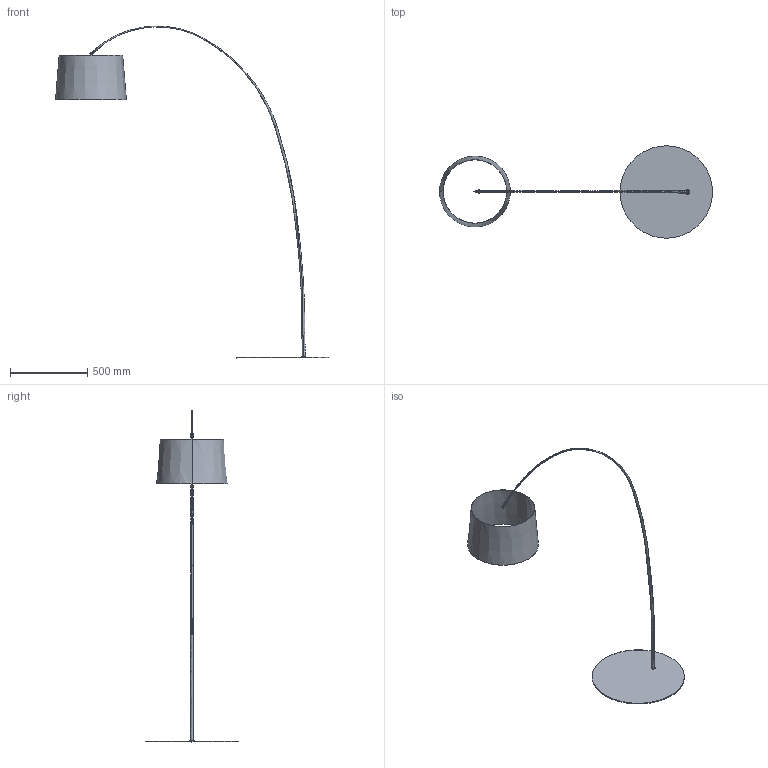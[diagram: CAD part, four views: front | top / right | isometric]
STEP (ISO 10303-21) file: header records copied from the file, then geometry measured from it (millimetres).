
FILE_DESCRIPTION (( 'STEP AP214' ), '1' );
FILE_NAME ('290_STD_OF_LD_2D.STEP', '2021-04-28T13:40:52', ( '' ), ( '' ), 'SwSTEP 2.0', 'SolidWorks 2021', '' );
FILE_SCHEMA (( 'AUTOMOTIVE_DESIGN' ));
Length unit declared in the file: millimetre
Products named in the file (1): 290_STD_OF_LD_2D
Bounding box: 1772.21 x 600 x 2155.37 mm (x, y, z)
Volume: 2219293.5 mm3; surface area: 1622010 mm2
Topology: 6 solids, 6 shells, 184 faces, 442 edges, 261 vertices
Faces by surface type: cylinder 53, bspline 35, cone 31, plane 29, torus 28, sphere 8
Entity records: 17938 total; most frequent: CARTESIAN_POINT 11823, ORIENTED_EDGE 868, DIRECTION 793, EDGE_CURVE 434, AXIS2_PLACEMENT_3D 344, VERTEX_POINT 261, EDGE_LOOP 205, CIRCLE 194
